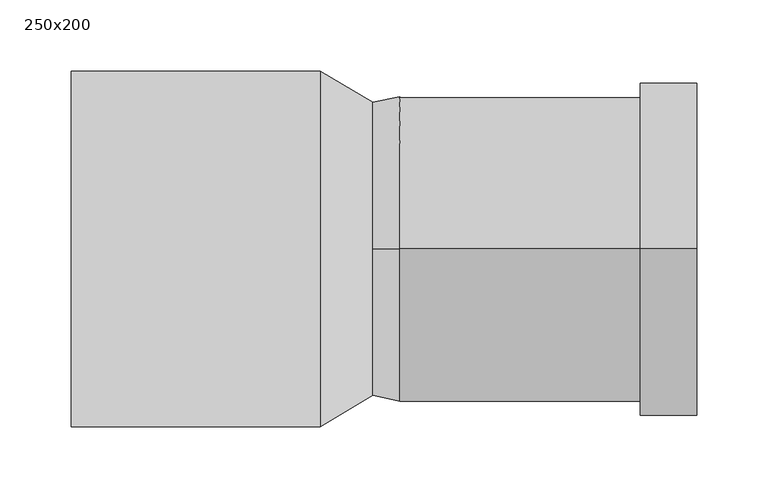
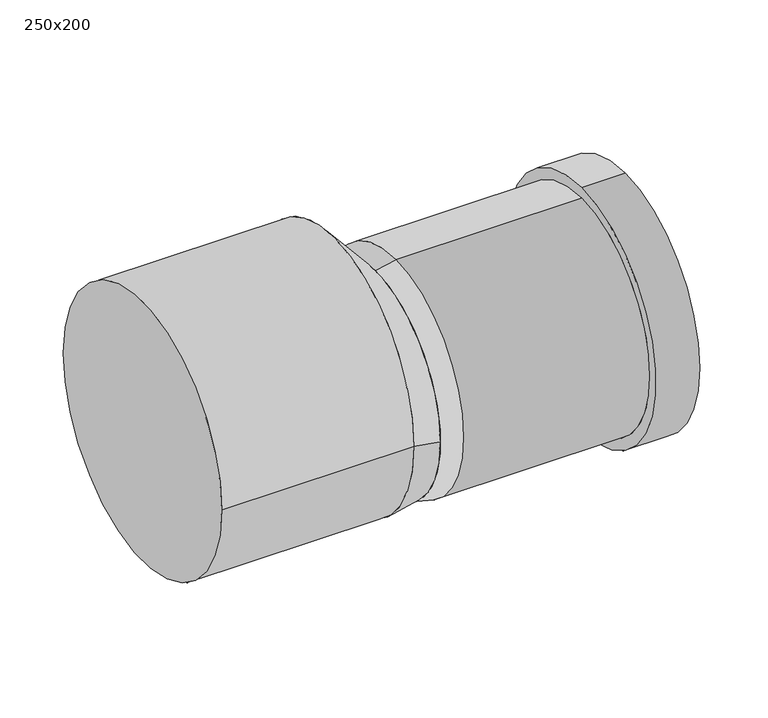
"""IFC4 building model written with IfcOpenShell, lengths in millimetres: pipe fitting geometry, Pipelife - PP - Redukcja kanalizacyjna_studnia : 250x200."""

from ifc_helpers import new_model, si_unit, point, frame, origin, origin_2d, place, context, project, spatial, polyline, circle_curve, trimmed, segment, composite_curve, outline, extrude, source, transform, mapped, element, save
from ifc_brep_helpers import plane_surface, cylinder_surface, revolved_surface, spline_surface, advanced_brep


def pipe_fitting_250x200_7158146f(model_context):
    return source(origin(), model_context, "Body", "SolidModel", [
        extrude(outline(composite_curve([segment(trimmed(circle_curve(origin_2d(), 125.0), [point((125.0, 0.0))], [point((-125.0, 0.0))], False, "CARTESIAN"), True, "CONTINUOUS"), segment(trimmed(circle_curve(origin_2d(), 125.0), [point((-125.0, 0.0))], [point((125.0, 0.0))], False, "CARTESIAN"), True, "CONTINUOUS")], self_intersect=False)), frame((-193.5, 0.0, 0.0), z_axis=(1.0, 0.0, 0.0), x_axis=(0.0, 1.0, 0.0)), (0.0, 0.0, 1.0), 175.0),
        advanced_brep(
        [(246.5, 0.0, -139.0), (246.5, 0.0, 95.0), (246.5, 0.0, -123.0), (246.5, 0.0, 79.0), (37.5, 0.0, -129.0), (206.5, 0.0, -129.0), (206.5, 0.0, 85.0), (37.5, 0.0, 85.0), (37.5, 0.0, 79.0), (37.5, 0.0, -123.0), (206.5, 0.0, -139.0), (206.5, 0.0, 95.0), (18.5, 0.0, -125.0), (18.5, 0.0, 81.0)],
        [
            (0, 1, circle_curve(frame((246.5, 0.0, -22.0), z_axis=(1.0, 0.0, 0.0), x_axis=(0.0, 0.0, 1.0)), 117.0)),
            (1, 0, circle_curve(frame((246.5, 0.0, -22.0), z_axis=(1.0, 0.0, 0.0), x_axis=(0.0, 0.0, 1.0)), 117.0)),
            (2, 3, circle_curve(frame((246.5, 0.0, -22.0), z_axis=(-1.0, 0.0, 0.0), x_axis=(0.0, 0.0, 1.0)), 101.0)),
            (3, 2, circle_curve(frame((246.5, 0.0, -22.0), z_axis=(-1.0, 0.0, 0.0), x_axis=(0.0, 0.0, 1.0)), 101.0)),
            (4, 5),
            (5, 6, circle_curve(frame((206.5, 0.0, -22.0), z_axis=(-1.0, 0.0, 0.0), x_axis=(0.0, 0.0, 1.0)), 107.0)),
            (6, 7),
            (7, 4, circle_curve(frame((37.5, 0.0, -22.0), z_axis=(1.0, 0.0, 0.0), x_axis=(0.0, 0.0, 1.0)), 107.0)),
            (4, 7, circle_curve(frame((37.5, 0.0, -22.0), z_axis=(1.0, 0.0, 0.0), x_axis=(0.0, 0.0, 1.0)), 107.0)),
            (6, 5, circle_curve(frame((206.5, 0.0, -22.0), z_axis=(-1.0, 0.0, 0.0), x_axis=(0.0, 0.0, 1.0)), 107.0)),
            (8, 3),
            (2, 9),
            (9, 8, circle_curve(frame((37.5, 0.0, -22.0), z_axis=(-1.0, 0.0, 0.0), x_axis=(0.0, 0.0, 1.0)), 101.0)),
            (8, 9, circle_curve(frame((37.5, 0.0, -22.0), z_axis=(-1.0, 0.0, 0.0), x_axis=(0.0, 0.0, 1.0)), 101.0)),
            (10, 11, circle_curve(frame((206.5, 0.0, -22.0), z_axis=(-1.0, 0.0, 0.0), x_axis=(0.0, 0.0, 1.0)), 117.0)),
            (11, 10, circle_curve(frame((206.5, 0.0, -22.0), z_axis=(-1.0, 0.0, 0.0), x_axis=(0.0, 0.0, 1.0)), 117.0)),
            (10, 0),
            (1, 11),
            (12, 13, circle_curve(frame((18.5, 0.0, -22.0), z_axis=(-1.0, 0.0, 0.0), x_axis=(0.0, 0.0, 1.0)), 103.0)),
            (13, 12, circle_curve(frame((18.5, 0.0, -22.0), z_axis=(-1.0, 0.0, 0.0), x_axis=(0.0, 0.0, -1.0)), 103.0)),
            (13, 7),
            (4, 12),
        ],
        [
            plane_surface(frame((246.5, 0.0, -22.0), z_axis=(1.0, 0.0, 0.0), x_axis=(0.0, -1.0, 0.0))),
            cylinder_surface(frame((37.5, 0.0, -22.0), z_axis=(-1.0, 0.0, 0.0), x_axis=(0.0, 0.0, 1.0)), 107.0),
            revolved_surface(polyline([(37.5, 0.0, 79.0), (246.5, 0.0, 79.0)]), (37.5, 0.0, -22.0), (-1.0, 0.0, 0.0)),
            plane_surface(frame((206.5, 0.0, -22.0), z_axis=(-1.0, 0.0, 0.0), x_axis=(0.0, -1.0, 0.0))),
            cylinder_surface(frame((206.5, 0.0, -22.0), z_axis=(-1.0, 0.0, 0.0), x_axis=(0.0, 0.0, 1.0)), 117.0),
            plane_surface(frame((37.5, 0.0, -22.0), z_axis=(1.0, 0.0, 0.0), x_axis=(0.0, 1.0, 0.0))),
            plane_surface(frame((18.5, 0.0, -22.0), z_axis=(-1.0, 0.0, 0.0), x_axis=(0.0, 1.0, 0.0))),
            revolved_surface(polyline([(18.5, 0.0, 81.0), (37.5, 0.0, 85.0)]), (-470.75, 0.0, -22.0), (1.0, 0.0, 0.0)),
            revolved_surface(polyline([(18.5, 0.0, -125.0), (37.5, 0.0, -129.0)]), (-470.75, 0.0, -22.0), (1.0, 0.0, 0.0)),
        ],
        [
            (0, [[1, 2], [3, 4]]),
            (1, [[5, 6, 7, 8]]),
            (1, [[-5, 9, -7, 10]]),
            (2, [[11, -3, 12, 13]]),
            (2, [[-11, 14, -12, -4]]),
            (3, [[15, 16], [-6, -10]]),
            (4, [[-15, 17, -2, 18]]),
            (4, [[-16, -18, -1, -17]]),
            (5, [[-13, -14]]),
            (6, [[19, 20]]),
            (7, [[-20, 21, -9, 22]]),
            (8, [[-19, -22, -8, -21]]),
        ],
    ),
        advanced_brep(
        [(18.5, -103.0, -22.0), (18.5, 103.0, -22.0), (-18.5, -125.0, 0.0), (-18.5, 125.0, 0.0)],
        [
            (0, 1, circle_curve(frame((18.5, 0.0, -22.0), z_axis=(1.0, 0.0, 0.0), x_axis=(0.0, 1.0, 0.0)), 103.0)),
            (1, 0, circle_curve(frame((18.5, 0.0, -22.0), z_axis=(1.0, 0.0, 0.0), x_axis=(0.0, 1.0, 0.0)), 103.0)),
            (2, 3, circle_curve(frame((-18.5, 0.0, 0.0), z_axis=(-1.0, 0.0, 0.0), x_axis=(0.0, 1.0, 0.0)), 125.0)),
            (3, 2, circle_curve(frame((-18.5, 0.0, 0.0), z_axis=(-1.0, 0.0, 0.0), x_axis=(0.0, 1.0, 0.0)), 125.0)),
            (3, 1),
            (0, 2),
        ],
        [
            plane_surface(frame((18.5, 0.0, -22.0), z_axis=(1.0, 0.0, 0.0), x_axis=(0.0, 0.0, -1.0))),
            plane_surface(frame((-18.5, 0.0, 0.0), z_axis=(-1.0, 0.0, 0.0), x_axis=(0.0, 0.0, -1.0))),
            spline_surface(2, 1, [[(-18.5, -125.0, 0.0), (18.5, -103.0, -22.0)], [(-18.5, -125.0, -125.0), (18.5, -103.0, -125.0)], [(-18.5, 0.0, -125.0), (18.5, 0.0, -125.0)], [(-18.5, 125.0, -125.0), (18.5, 103.0, -125.0)], [(-18.5, 125.0, 0.0), (18.5, 103.0, -22.0)]], [3, 2, 3], [2, 2], [0.0, 1.0, 2.0], [0.0, 1.0], weights=[[1.0, 1.0], [0.7071067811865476, 0.7071067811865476], [1.0, 1.0], [0.7071067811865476, 0.7071067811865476], [1.0, 1.0]]),
            spline_surface(2, 1, [[(-18.5, 125.0, 0.0), (18.5, 103.0, -22.0)], [(-18.5, 125.0, 125.0), (18.5, 103.0, 81.0)], [(-18.5, 0.0, 125.0), (18.5, 0.0, 81.0)], [(-18.5, -125.0, 125.0), (18.5, -103.0, 81.0)], [(-18.5, -125.0, 0.0), (18.5, -103.0, -22.0)]], [3, 2, 3], [2, 2], [0.0, 1.0, 2.0], [0.0, 1.0], weights=[[1.0, 1.0], [0.7071067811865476, 0.7071067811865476], [1.0, 1.0], [0.7071067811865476, 0.7071067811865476], [1.0, 1.0]]),
        ],
        [
            (0, [[1, 2]]),
            (1, [[3, 4]]),
            (2, [[-4, 5, -1, 6]]),
            (3, [[-3, -6, -2, -5]]),
        ],
    ),
    ])


if __name__ == "__main__":
    model = new_model("IFC4")
    model_context = context("Model", 3, world=origin())
    ifc_project = project(units=[si_unit("LENGTHUNIT", "METRE", prefix="MILLI")], contexts=[model_context])
    site = spatial("IfcSite", under=ifc_project)
    building = spatial("IfcBuilding", under=site)
    placement = place(None, origin())
    pipe_fitting_250x200_shape = pipe_fitting_250x200_7158146f(model_context)
    element("IfcPipeFitting", 1, ObjectType="Pipelife - PP - Redukcja kanalizacyjna_studnia : 250x200", at=placement, inside=building, context=model_context, shape_type="MappedRepresentation", body=[
        mapped(pipe_fitting_250x200_shape, transform((0.0, 0.0, 0.0), x_axis=(1.0, 0.0, 0.0), y_axis=(0.0, 1.0, 0.0), z_axis=(0.0, 0.0, 1.0))),
    ])
    save(model, "model.ifc")
